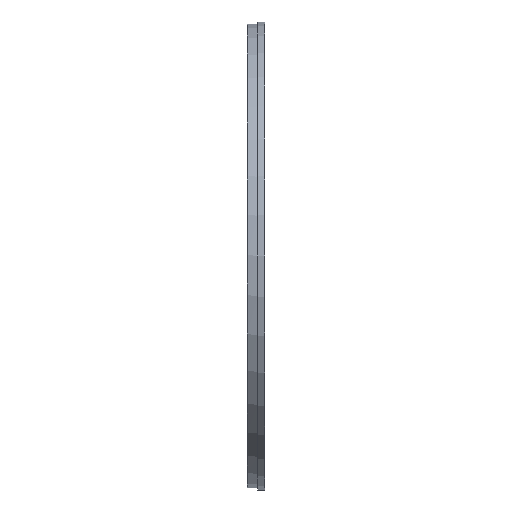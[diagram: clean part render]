
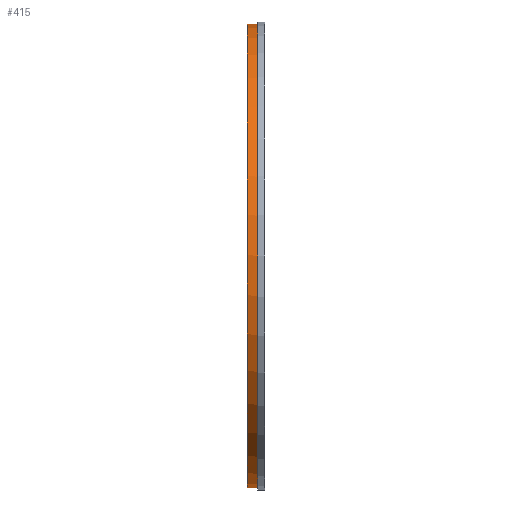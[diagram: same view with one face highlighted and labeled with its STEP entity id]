
A CAD part, left-side view. The second image highlights one B-rep face of the part: STEP entity #415.
In plain terms, the highlighted cylindrical face has radius 26.25 mm (diameter 52.5 mm), a partial arc.
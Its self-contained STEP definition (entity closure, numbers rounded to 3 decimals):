
#7 = VERTEX_POINT ( 'NONE', #1249 ) ;
#26 = VERTEX_POINT ( 'NONE', #1136 ) ;
#50 = EDGE_CURVE ( 'NONE', #291, #202, #862, .T. ) ;
#55 = VECTOR ( 'NONE', #114, 1000. ) ;
#114 = DIRECTION ( 'NONE',  ( 0., -1., 0. ) ) ;
#170 = DIRECTION ( 'NONE',  ( 0., 0., 1. ) ) ;
#202 = VERTEX_POINT ( 'NONE', #729 ) ;
#207 = CARTESIAN_POINT ( 'NONE',  ( -0.25, 2.001, -26.249 ) ) ;
#211 = CARTESIAN_POINT ( 'NONE',  ( 0., 2., 26.25 ) ) ;
#217 = DIRECTION ( 'NONE',  ( 0., 0., 1. ) ) ;
#242 = EDGE_CURVE ( 'NONE', #680, #26, #534, .T. ) ;
#291 = VERTEX_POINT ( 'NONE', #1160 ) ;
#293 = CIRCLE ( 'NONE', #951, 26.25 ) ;
#298 = EDGE_CURVE ( 'NONE', #731, #7, #739, .T. ) ;
#302 = ORIENTED_EDGE ( 'NONE', *, *, #298, .F. ) ;
#326 = DIRECTION ( 'NONE',  ( 0., 0., -1. ) ) ;
#351 = DIRECTION ( 'NONE',  ( 0., -1., 0. ) ) ;
#352 = CIRCLE ( 'NONE', #1013, 26.25 ) ;
#415 = ADVANCED_FACE ( 'NONE', ( #737 ), #940, .T. ) ;
#421 = ORIENTED_EDGE ( 'NONE', *, *, #1336, .T. ) ;
#462 = ORIENTED_EDGE ( 'NONE', *, *, #1291, .F. ) ;
#500 = EDGE_LOOP ( 'NONE', ( #302, #1025, #535, #462, #1327, #421 ) ) ;
#534 = LINE ( 'NONE', #207, #1178 ) ;
#535 = ORIENTED_EDGE ( 'NONE', *, *, #242, .F. ) ;
#541 = EDGE_CURVE ( 'NONE', #26, #731, #352, .T. ) ;
#551 = DIRECTION ( 'NONE',  ( 0., 1., 0. ) ) ;
#556 = CARTESIAN_POINT ( 'NONE',  ( 0., 2., -26.25 ) ) ;
#608 = VECTOR ( 'NONE', #637, 1000. ) ;
#620 = CARTESIAN_POINT ( 'NONE',  ( 0., 2.001, 0. ) ) ;
#636 = AXIS2_PLACEMENT_3D ( 'NONE', #762, #351, #326 ) ;
#637 = DIRECTION ( 'NONE',  ( 0., -1., 0. ) ) ;
#680 = VERTEX_POINT ( 'NONE', #700 ) ;
#700 = CARTESIAN_POINT ( 'NONE',  ( -0.25, 2.001, -26.249 ) ) ;
#729 = CARTESIAN_POINT ( 'NONE',  ( 0., 0.8, -26.25 ) ) ;
#731 = VERTEX_POINT ( 'NONE', #933 ) ;
#737 = FACE_OUTER_BOUND ( 'NONE', #500, .T. ) ;
#739 = LINE ( 'NONE', #211, #608 ) ;
#762 = CARTESIAN_POINT ( 'NONE',  ( 0., 2., 0. ) ) ;
#833 = DIRECTION ( 'NONE',  ( 0., 1., 0. ) ) ;
#862 = LINE ( 'NONE', #556, #55 ) ;
#933 = CARTESIAN_POINT ( 'NONE',  ( 0., 2., 26.25 ) ) ;
#935 = CARTESIAN_POINT ( 'NONE',  ( 0., 0.8, 0. ) ) ;
#940 = CYLINDRICAL_SURFACE ( 'NONE', #636, 26.25 ) ;
#951 = AXIS2_PLACEMENT_3D ( 'NONE', #620, #1126, #170 ) ;
#1013 = AXIS2_PLACEMENT_3D ( 'NONE', #1276, #551, #217 ) ;
#1025 = ORIENTED_EDGE ( 'NONE', *, *, #541, .F. ) ;
#1091 = DIRECTION ( 'NONE',  ( 0., -1., 0. ) ) ;
#1126 = DIRECTION ( 'NONE',  ( 0., 1., 0. ) ) ;
#1136 = CARTESIAN_POINT ( 'NONE',  ( -0.25, 2., -26.249 ) ) ;
#1154 = DIRECTION ( 'NONE',  ( 0., 0., 1. ) ) ;
#1160 = CARTESIAN_POINT ( 'NONE',  ( 0., 2.001, -26.25 ) ) ;
#1178 = VECTOR ( 'NONE', #1091, 1000. ) ;
#1199 = CIRCLE ( 'NONE', #1380, 26.25 ) ;
#1249 = CARTESIAN_POINT ( 'NONE',  ( 0., 0.8, 26.25 ) ) ;
#1276 = CARTESIAN_POINT ( 'NONE',  ( 0., 2., 0. ) ) ;
#1291 = EDGE_CURVE ( 'NONE', #291, #680, #293, .T. ) ;
#1327 = ORIENTED_EDGE ( 'NONE', *, *, #50, .T. ) ;
#1336 = EDGE_CURVE ( 'NONE', #202, #7, #1199, .T. ) ;
#1380 = AXIS2_PLACEMENT_3D ( 'NONE', #935, #833, #1154 ) ;
